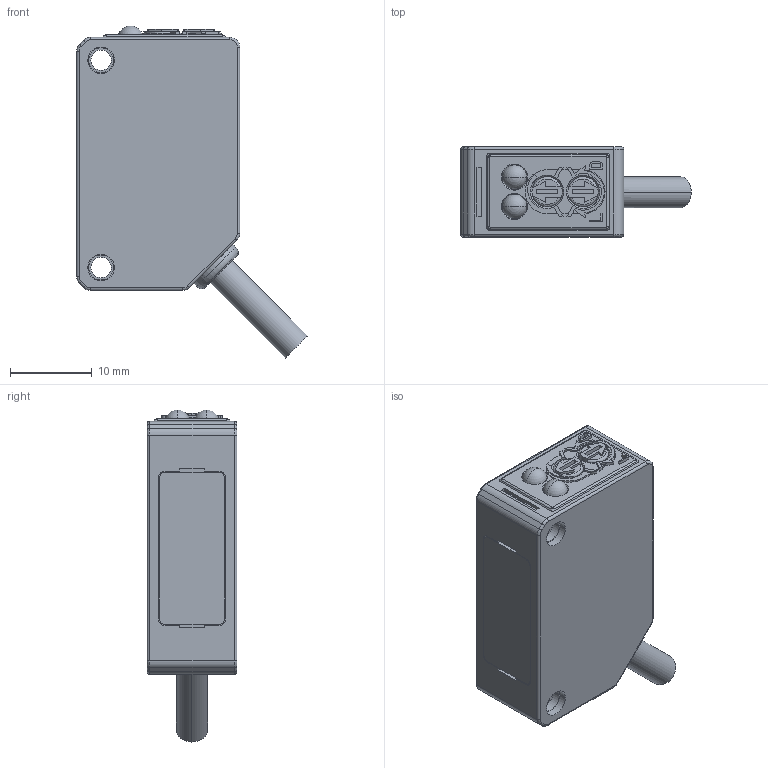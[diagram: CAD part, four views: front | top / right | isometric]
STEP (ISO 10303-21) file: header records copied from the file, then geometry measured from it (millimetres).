
FILE_DESCRIPTION(('CoCreate Modeling STEP Export'),'2;1');
FILE_NAME('Z4_Cable_Type.stp','2019-10-04T14:24:00',(''),(''),'CoCreate Modeling STEP processor for AP214 (Solid Model)','CoCreate Modeling 16.50A 01-Dec-2009 (C) Parametric Technology GmbH','');
FILE_SCHEMA(('AUTOMOTIVE_DESIGN { 1 0 10303 214 1 1 1 1 }'));
Length unit declared in the file: millimetre
Products named in the file (2): Z4_Cable_Type
Assembly tree (1 placements, depth 2):
  Z4_Cable_Type
    Z4_Cable_Type
Bounding box: 28.29 x 11 x 40.69 mm (x, y, z)
Volume: 6653.7 mm3; surface area: 2791.6 mm2
Topology: 1 solids, 1 shells, 266 faces, 681 edges, 434 vertices
Faces by surface type: plane 136, cylinder 86, torus 26, cone 10, sphere 4, bspline 4
Entity records: 8184 total; most frequent: CARTESIAN_POINT 1911, ORIENTED_EDGE 1354, DIRECTION 1239, EDGE_CURVE 677, VERTEX_POINT 434, VECTOR 423, LINE 423, AXIS2_PLACEMENT_3D 408
